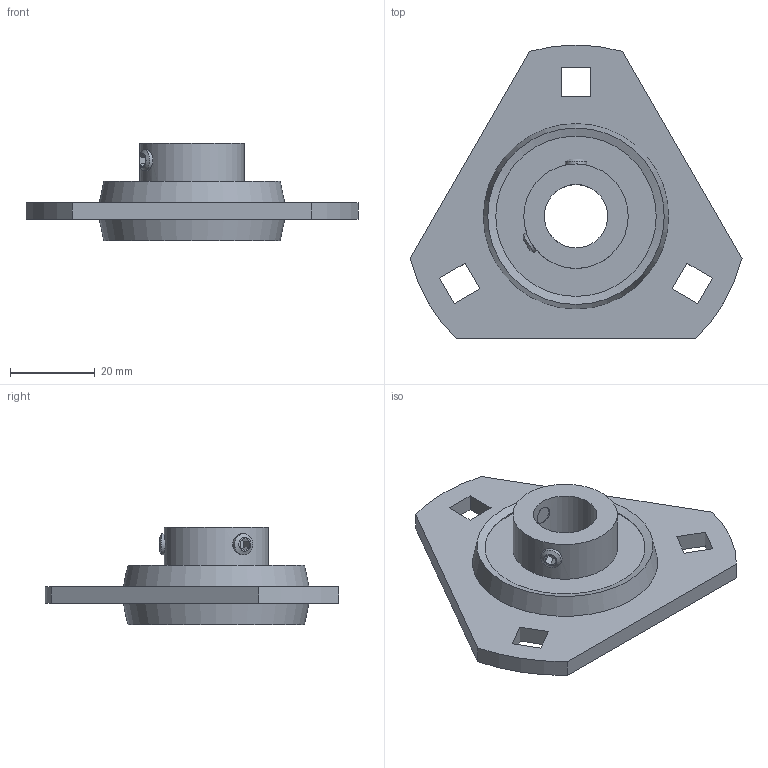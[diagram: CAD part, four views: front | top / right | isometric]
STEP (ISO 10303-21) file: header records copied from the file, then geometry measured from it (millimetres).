
FILE_DESCRIPTION((''),'2;1');
FILE_NAME('\\Ts-tgl068\j-cad-d-base\00.3DCADデータ作成フォルダ\02.フランジ形\BPFT\BPFT2.stp','2014-05-08T08:31:03',('btec_1106_2'),(''),'Autodesk Inventor 2012','Autodesk Inventor 2012','');
FILE_SCHEMA(('AUTOMOTIVE_DESIGN { 1 0 10303 214 1 1 1 1 }'));
Length unit declared in the file: millimetre
Products named in the file (3): BPFT; PFT3; シリーズB [番手=2 ul]
Assembly tree (2 placements, depth 2):
  BPFT
    PFT3
    シリーズB [番手=2 ul]
Bounding box: 78.5 x 69.5 x 23 mm (x, y, z)
Volume: 27663.6 mm3; surface area: 14407.1 mm2
Topology: 2 solids, 2 shells, 57 faces, 139 edges, 91 vertices
Faces by surface type: plane 38, cylinder 11, sphere 4, cone 4
Full cylindrical faces by diameter (mm): 5 x2, 15 x1, 24.7 x1
Entity records: 1748 total; most frequent: CARTESIAN_POINT 400, DIRECTION 260, ORIENTED_EDGE 236, EDGE_CURVE 118, AXIS2_PLACEMENT_3D 88, EDGE_LOOP 86, VERTEX_POINT 84, VECTOR 84
